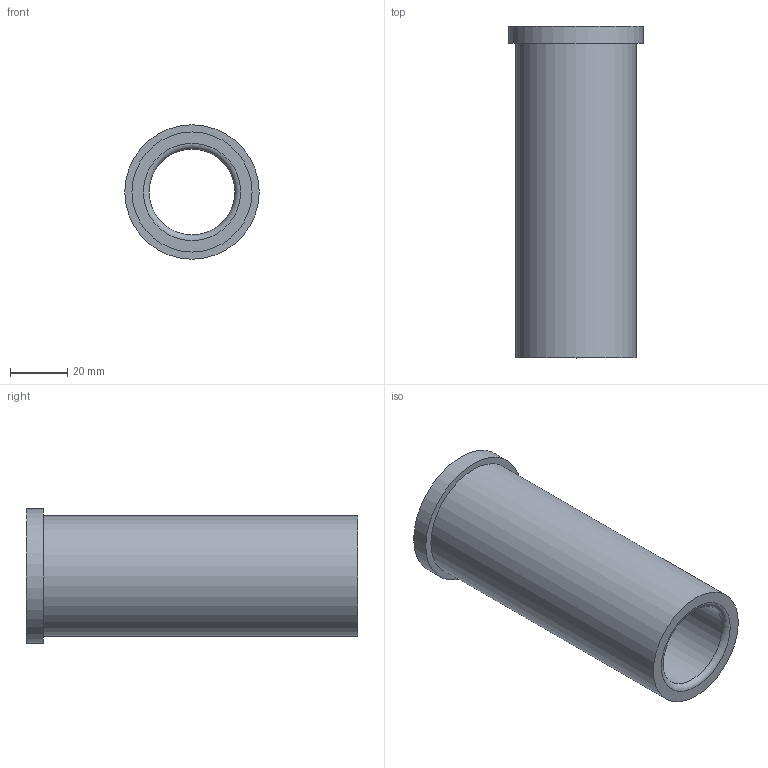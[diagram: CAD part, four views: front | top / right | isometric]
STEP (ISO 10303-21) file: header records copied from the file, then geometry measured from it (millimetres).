
FILE_DESCRIPTION(/* description */ ('STEP AP214'),/* implementation_level */ '2;1');
FILE_NAME(/* name */ '03_12_17857',/* time_stamp */ '2023-06-15T11:35:39+02:00',/* author */ ('License CC BY-ND 4.0'),/* organization */ ('CADENAS'),/* preprocessor_version */ 'ST-DEVELOPER v19.3',/* originating_system */ 'PARTsolutions',/* authorisation */ ' ');
FILE_SCHEMA (('AUTOMOTIVE_DESIGN {1 0 10303 214 3 1 1}'));
Length unit declared in the file: millimetre
Products named in the file (1): VA_Bushing_17857
Bounding box: 47 x 116 x 47 mm (x, y, z)
Volume: 79982 mm3; surface area: 28272.9 mm2
Topology: 1 solids, 1 shells, 10 faces, 16 edges, 10 vertices
Faces by surface type: cylinder 4, plane 4, torus 2
Full cylindrical faces by diameter (mm): 30 x1, 30.6 x1, 42 x1, 47 x1
Entity records: 302 total; most frequent: DIRECTION 42, CARTESIAN_POINT 31, AXIS2_PLACEMENT_3D 21, ORIENTED_EDGE 20, EDGE_LOOP 20, FACE_BOUND 20, EDGE_CURVE 10, VERTEX_POINT 10
